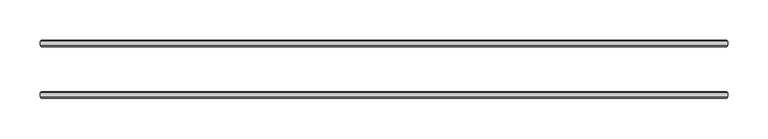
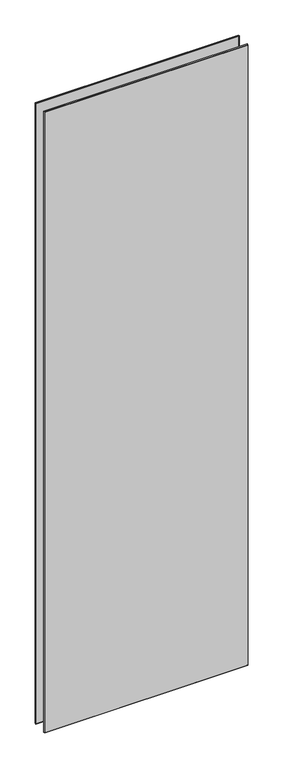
"""IFC4 building model written with IfcOpenShell, lengths in millimetres: plate geometry, 3-AMG-2-Панель двойной витраж 8, 10 : Смещение 32 Толщина 8mm."""

from ifc_helpers import new_model, si_unit, origin, place, context, project, spatial, faceted_brep, source, transform, mapped, element, save


def plate_275eea80(model_context):
    return source(origin(), model_context, "Body", "Brep", [
        faceted_brep([(428.0, -34.4961653, 2751.0), (428.0, -29.5038347, 2751.0), (-428.0, -29.5038347, 2751.0), (-428.0, -34.4961653, 2751.0), (428.0, -29.5038347, -7.0), (428.0, -34.4961653, -7.0), (-428.0, -34.4961653, -7.0), (-428.0, -29.5038347, -7.0), (-426.4961653, -28.0, 2749.4961653), (426.4961653, -28.0, 2749.4961653), (426.4961653, -28.0, -5.5039422), (-426.4961653, -28.0, -5.5039422), (426.4961653, -36.0, 2749.4961653), (-426.4961653, -36.0, 2749.4961653), (-426.4961653, -36.0, -5.4961653), (426.4961653, -36.0, -5.4961653)], [[[0, 1, 2, 3]], [[4, 5, 6, 7]], [[8, 9, 10, 11]], [[3, 2, 7, 6]], [[12, 13, 14, 15]], [[1, 0, 5, 4]], [[1, 4, 10, 9]], [[5, 0, 12, 15]], [[0, 3, 13, 12]], [[2, 1, 9, 8]], [[7, 2, 8, 11]], [[3, 6, 14, 13]], [[6, 5, 15, 14]], [[4, 7, 11, 10]]]),
        faceted_brep([(428.0, 29.5038347, 2751.0), (428.0, 34.4961653, 2751.0), (-428.0, 34.4961653, 2751.0), (-428.0, 29.5038347, 2751.0), (428.0, 34.4961653, -7.0), (428.0, 29.5038347, -7.0), (-428.0, 29.5038347, -7.0), (-428.0, 34.4961653, -7.0), (-426.4961653, 36.0, 2749.4961653), (426.4961653, 36.0, 2749.4961653), (426.4961653, 36.0, -5.5039422), (-426.4961653, 36.0, -5.5039422), (426.4961653, 28.0, 2749.4961653), (-426.4961653, 28.0, 2749.4961653), (-426.4961653, 28.0, -5.4961653), (426.4961653, 28.0, -5.4961653)], [[[0, 1, 2, 3]], [[4, 5, 6, 7]], [[8, 9, 10, 11]], [[3, 2, 7, 6]], [[12, 13, 14, 15]], [[1, 0, 5, 4]], [[1, 4, 10, 9]], [[5, 0, 12, 15]], [[7, 2, 8, 11]], [[3, 6, 14, 13]], [[0, 3, 13, 12]], [[2, 1, 9, 8]], [[6, 5, 15, 14]], [[4, 7, 11, 10]]]),
    ])


if __name__ == "__main__":
    model = new_model("IFC4")
    model_context = context("Model", 3, world=origin())
    ifc_project = project(units=[si_unit("LENGTHUNIT", "METRE", prefix="MILLI")], contexts=[model_context])
    site = spatial("IfcSite", under=ifc_project)
    building = spatial("IfcBuilding", under=site)
    placement = place(None, origin())
    plate_shape = plate_275eea80(model_context)
    element("IfcPlate", 1, ObjectType="3-AMG-2-Панель двойной витраж 8, 10 : Смещение 32 Толщина 8mm", at=placement, inside=building, context=model_context, shape_type="MappedRepresentation", body=[
        mapped(plate_shape, transform((0.0, 0.0, 0.0), x_axis=(1.0, 0.0, 0.0), y_axis=(0.0, 1.0, 0.0), z_axis=(0.0, 0.0, 1.0))),
    ])
    save(model, "model.ifc")
